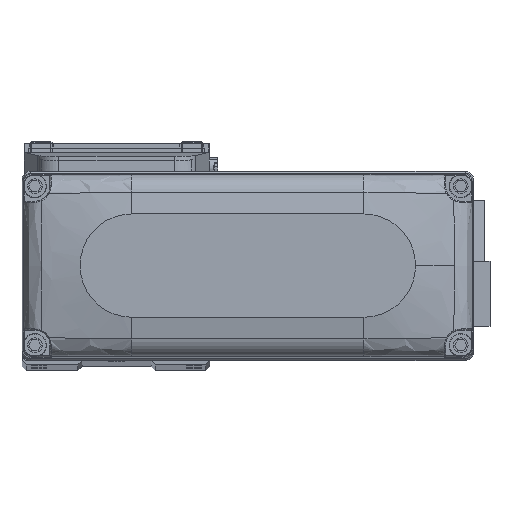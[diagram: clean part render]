
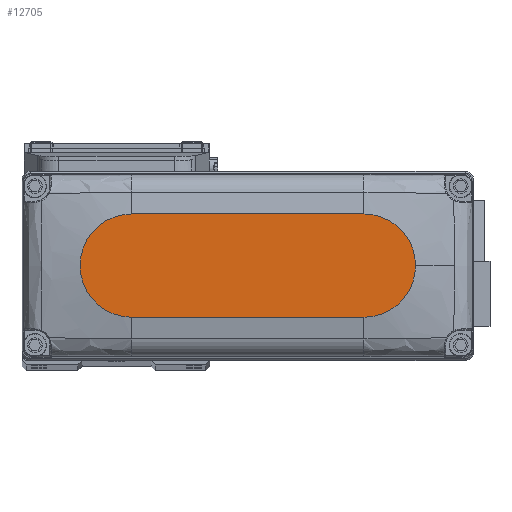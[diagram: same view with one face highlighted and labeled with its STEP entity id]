
A CAD part, top view. The second image highlights one B-rep face of the part: STEP entity #12705.
In plain terms, the highlighted planar face has unit normal (0, 0, 1).
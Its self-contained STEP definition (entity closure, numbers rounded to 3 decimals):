
#64 = ORIENTED_EDGE ( 'NONE', *, *, #14298, .T. ) ;
#630 = AXIS2_PLACEMENT_3D ( 'NONE', #8023, #20201, #32388 ) ;
#937 = DIRECTION ( 'NONE',  ( 0., 0., 1. ) ) ;
#2237 = CIRCLE ( 'NONE', #24580, 12. ) ;
#3287 = EDGE_LOOP ( 'NONE', ( #64, #28118, #17980, #6112, #30027 ) ) ;
#4076 = CARTESIAN_POINT ( 'NONE',  ( 0., 0., 25. ) ) ;
#4151 = DIRECTION ( 'NONE',  ( 1., 0., 0. ) ) ;
#4731 = VERTEX_POINT ( 'NONE', #14274 ) ;
#6112 = ORIENTED_EDGE ( 'NONE', *, *, #37736, .T. ) ;
#6295 = VERTEX_POINT ( 'NONE', #8582 ) ;
#7288 = LINE ( 'NONE', #19457, #19728 ) ;
#7629 = CARTESIAN_POINT ( 'NONE',  ( 27., 0., 25. ) ) ;
#8023 = CARTESIAN_POINT ( 'NONE',  ( -27., 0., 25. ) ) ;
#8582 = CARTESIAN_POINT ( 'NONE',  ( -27., -12., 25. ) ) ;
#9813 = EDGE_CURVE ( 'NONE', #13302, #35577, #15537, .T. ) ;
#12705 = ADVANCED_FACE ( 'NONE', ( #19235 ), #31432, .T. ) ;
#13129 = DIRECTION ( 'NONE',  ( 1., 0., 0. ) ) ;
#13302 = VERTEX_POINT ( 'NONE', #18425 ) ;
#14274 = CARTESIAN_POINT ( 'NONE',  ( -27., 12., 25. ) ) ;
#14298 = EDGE_CURVE ( 'NONE', #35577, #4731, #7288, .T. ) ;
#14768 = EDGE_CURVE ( 'NONE', #4731, #6295, #17830, .T. ) ;
#15537 = CIRCLE ( 'NONE', #20615, 12. ) ;
#15665 = VECTOR ( 'NONE', #4151, 1000. ) ;
#16244 = DIRECTION ( 'NONE',  ( 0., 0., 1. ) ) ;
#17830 = CIRCLE ( 'NONE', #630, 12. ) ;
#17980 = ORIENTED_EDGE ( 'NONE', *, *, #34008, .T. ) ;
#18086 = CARTESIAN_POINT ( 'NONE',  ( 27., 12., 25. ) ) ;
#18425 = CARTESIAN_POINT ( 'NONE',  ( 39., 0., 25. ) ) ;
#18859 = CARTESIAN_POINT ( 'NONE',  ( 27., -12., 25. ) ) ;
#18928 = VERTEX_POINT ( 'NONE', #18859 ) ;
#19235 = FACE_OUTER_BOUND ( 'NONE', #3287, .T. ) ;
#19308 = LINE ( 'NONE', #31508, #15665 ) ;
#19457 = CARTESIAN_POINT ( 'NONE',  ( -27., 12., 25. ) ) ;
#19728 = VECTOR ( 'NONE', #31662, 1000. ) ;
#19810 = DIRECTION ( 'NONE',  ( 0., 0., 1. ) ) ;
#20201 = DIRECTION ( 'NONE',  ( 0., 0., 1. ) ) ;
#20615 = AXIS2_PLACEMENT_3D ( 'NONE', #7629, #19810, #32001 ) ;
#24580 = AXIS2_PLACEMENT_3D ( 'NONE', #28302, #937, #13129 ) ;
#26583 = AXIS2_PLACEMENT_3D ( 'NONE', #4076, #16244, #28433 ) ;
#28118 = ORIENTED_EDGE ( 'NONE', *, *, #14768, .T. ) ;
#28302 = CARTESIAN_POINT ( 'NONE',  ( 27., 0., 25. ) ) ;
#28433 = DIRECTION ( 'NONE',  ( 1., 0., 0. ) ) ;
#30027 = ORIENTED_EDGE ( 'NONE', *, *, #9813, .T. ) ;
#31432 = PLANE ( 'NONE',  #26583 ) ;
#31508 = CARTESIAN_POINT ( 'NONE',  ( -27., -12., 25. ) ) ;
#31662 = DIRECTION ( 'NONE',  ( -1., 0., 0. ) ) ;
#32001 = DIRECTION ( 'NONE',  ( 1., 0., 0. ) ) ;
#32388 = DIRECTION ( 'NONE',  ( 1., 0., 0. ) ) ;
#34008 = EDGE_CURVE ( 'NONE', #6295, #18928, #19308, .T. ) ;
#35577 = VERTEX_POINT ( 'NONE', #18086 ) ;
#37736 = EDGE_CURVE ( 'NONE', #18928, #13302, #2237, .T. ) ;
